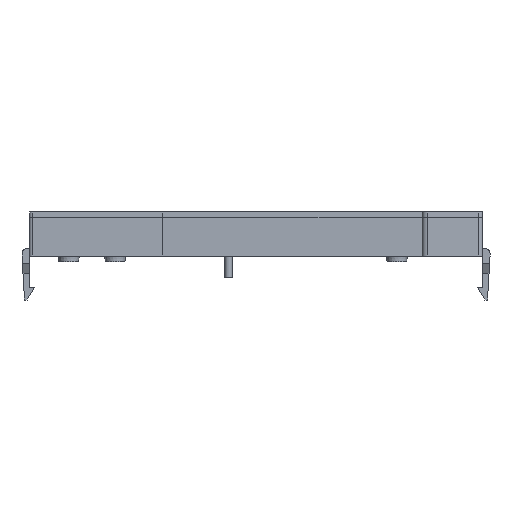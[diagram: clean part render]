
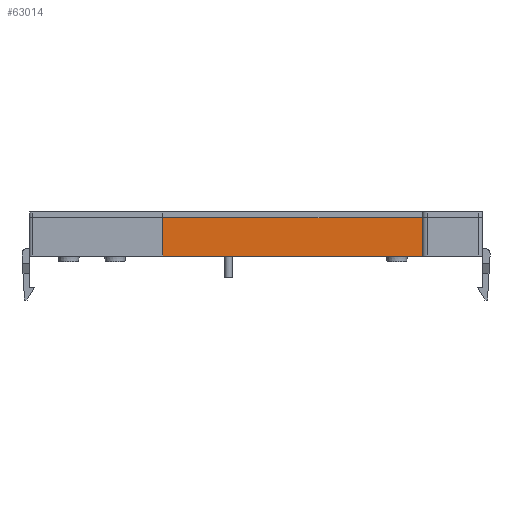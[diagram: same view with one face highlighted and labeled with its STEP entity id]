
A CAD part, front view. The second image highlights one B-rep face of the part: STEP entity #63014.
In plain terms, the highlighted planar face has unit normal (0, -1, 0).
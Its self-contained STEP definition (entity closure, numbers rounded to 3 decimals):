
#25941 = CARTESIAN_POINT ( 'NONE',  ( -63.5, 0., -1.5 ) ) ;
#26011 = DIRECTION ( 'NONE',  ( 1., 0., 0. ) ) ;
#26012 = VECTOR ( 'NONE', #26011, 1000. ) ;
#26013 = CARTESIAN_POINT ( 'NONE',  ( -12., 0., -1.5 ) ) ;
#26014 = LINE ( 'NONE', #26013, #26012 ) ;
#26023 = CARTESIAN_POINT ( 'NONE',  ( -12., 0., -1.5 ) ) ;
#53829 = VERTEX_POINT ( 'NONE', #25941 ) ;
#53861 = EDGE_CURVE ( 'NONE', #53829, #53902, #26014, .T. ) ;
#53902 = VERTEX_POINT ( 'NONE', #26023 ) ;
#62653 = VERTEX_POINT ( 'NONE', #72766 ) ;
#63011 = EDGE_CURVE ( 'NONE', #53902, #62653, #73462, .T. ) ;
#63014 = ADVANCED_FACE ( 'NONE', ( #73458 ), #73500, .T. ) ;
#63017 = EDGE_LOOP ( 'NONE', ( #63019, #63021, #63024, #63033 ) ) ;
#63019 = ORIENTED_EDGE ( 'NONE', *, *, #63011, .T. ) ;
#63021 = ORIENTED_EDGE ( 'NONE', *, *, #63022, .F. ) ;
#63022 = EDGE_CURVE ( 'NONE', #63023, #62653, #73495, .T. ) ;
#63023 = VERTEX_POINT ( 'NONE', #73491 ) ;
#63024 = ORIENTED_EDGE ( 'NONE', *, *, #63026, .F. ) ;
#63026 = EDGE_CURVE ( 'NONE', #53829, #63023, #73490, .T. ) ;
#63033 = ORIENTED_EDGE ( 'NONE', *, *, #53861, .T. ) ;
#72766 = CARTESIAN_POINT ( 'NONE',  ( -12., 0., 6.075 ) ) ;
#73458 = FACE_OUTER_BOUND ( 'NONE', #63017, .T. ) ;
#73459 = DIRECTION ( 'NONE',  ( 0., 0., 1. ) ) ;
#73460 = VECTOR ( 'NONE', #73459, 1000. ) ;
#73461 = CARTESIAN_POINT ( 'NONE',  ( -12., 0., -1.5 ) ) ;
#73462 = LINE ( 'NONE', #73461, #73460 ) ;
#73487 = DIRECTION ( 'NONE',  ( 0., 0., 1. ) ) ;
#73488 = VECTOR ( 'NONE', #73487, 1000. ) ;
#73489 = CARTESIAN_POINT ( 'NONE',  ( -63.5, 0., -1.5 ) ) ;
#73490 = LINE ( 'NONE', #73489, #73488 ) ;
#73491 = CARTESIAN_POINT ( 'NONE',  ( -63.5, 0., 6.075 ) ) ;
#73492 = DIRECTION ( 'NONE',  ( 1., 0., 0. ) ) ;
#73493 = VECTOR ( 'NONE', #73492, 1000. ) ;
#73494 = CARTESIAN_POINT ( 'NONE',  ( -45.002, 0., 6.075 ) ) ;
#73495 = LINE ( 'NONE', #73494, #73493 ) ;
#73496 = DIRECTION ( 'NONE',  ( 1., 0., 0. ) ) ;
#73497 = DIRECTION ( 'NONE',  ( 0., -1., 0. ) ) ;
#73498 = CARTESIAN_POINT ( 'NONE',  ( -12., 0., -1.5 ) ) ;
#73499 = AXIS2_PLACEMENT_3D ( 'NONE', #73498, #73497, #73496 ) ;
#73500 = PLANE ( 'NONE',  #73499 ) ;
